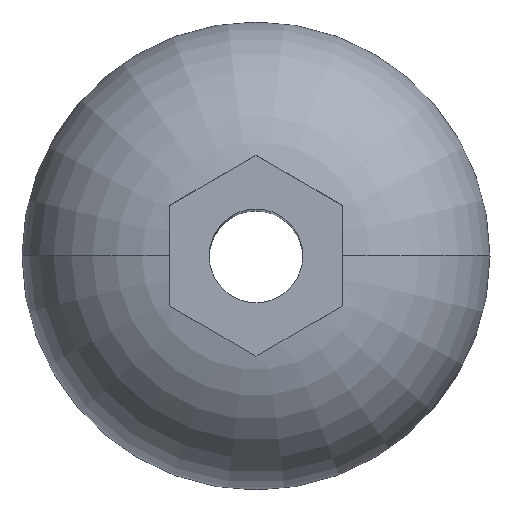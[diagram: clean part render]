
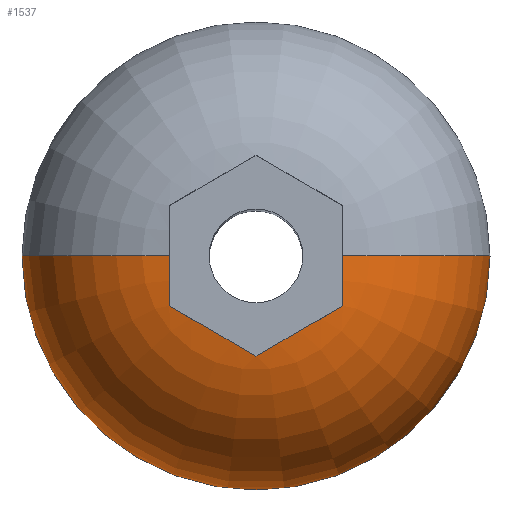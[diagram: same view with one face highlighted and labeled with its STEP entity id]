
A CAD part, top view. The second image highlights one B-rep face of the part: STEP entity #1537.
In plain terms, the highlighted toroidal (fillet/blend) face has major radius 0.501 mm and minor radius 1.25 mm.
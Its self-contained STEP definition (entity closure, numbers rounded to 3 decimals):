
#100 = CARTESIAN_POINT ( 'NONE',  ( -0.65, -0.375, 1.275 ) ) ;
#130 = ORIENTED_EDGE ( 'NONE', *, *, #752, .T. ) ;
#164 = EDGE_CURVE ( 'NONE', #2044, #1107, #1593, .T. ) ;
#167 = CARTESIAN_POINT ( 'NONE',  ( -1.75, 0., 0. ) ) ;
#196 = DIRECTION ( 'NONE',  ( 0., 0., 1. ) ) ;
#207 = EDGE_LOOP ( 'NONE', ( #1909, #1767, #1848, #2386, #130, #806, #1692 ) ) ;
#239 = VERTEX_POINT ( 'NONE', #741 ) ;
#256 = B_SPLINE_CURVE_WITH_KNOTS ( 'NONE', 3,
 ( #315, #1825, #1272, #674, #100 ),
 .UNSPECIFIED., .F., .F.,
 ( 4, 1, 4 ),
 ( 0., 0., 0.001 ),
 .UNSPECIFIED. ) ;
#270 = DIRECTION ( 'NONE',  ( 0., 0., -1. ) ) ;
#273 = DIRECTION ( 'NONE',  ( 1., 0., 0. ) ) ;
#315 = CARTESIAN_POINT ( 'NONE',  ( 0., -0.751, 1.275 ) ) ;
#318 = CARTESIAN_POINT ( 'NONE',  ( 0.65, -0.313, 1.281 ) ) ;
#418 = CARTESIAN_POINT ( 'NONE',  ( 0.65, -0.375, 1.275 ) ) ;
#450 = EDGE_CURVE ( 'NONE', #1019, #239, #1969, .T. ) ;
#465 = AXIS2_PLACEMENT_3D ( 'NONE', #502, #849, #270 ) ;
#502 = CARTESIAN_POINT ( 'NONE',  ( 0.501, 0., 0.05 ) ) ;
#513 = CARTESIAN_POINT ( 'NONE',  ( -0.65, -0.063, 1.291 ) ) ;
#565 = CARTESIAN_POINT ( 'NONE',  ( 0., -0.751, 1.275 ) ) ;
#585 = CARTESIAN_POINT ( 'NONE',  ( 0.325, -0.563, 1.295 ) ) ;
#653 = CARTESIAN_POINT ( 'NONE',  ( 0., 0., 0.05 ) ) ;
#674 = CARTESIAN_POINT ( 'NONE',  ( -0.542, -0.438, 1.288 ) ) ;
#741 = CARTESIAN_POINT ( 'NONE',  ( -0.65, 0., 1.291 ) ) ;
#752 = EDGE_CURVE ( 'NONE', #1107, #1729, #1212, .T. ) ;
#806 = ORIENTED_EDGE ( 'NONE', *, *, #1629, .T. ) ;
#849 = DIRECTION ( 'NONE',  ( 0., -1., 0. ) ) ;
#854 = VERTEX_POINT ( 'NONE', #167 ) ;
#887 = CARTESIAN_POINT ( 'NONE',  ( 0.65, -0.063, 1.291 ) ) ;
#967 = DIRECTION ( 'NONE',  ( 1., 0., 0. ) ) ;
#978 = AXIS2_PLACEMENT_3D ( 'NONE', #653, #1413, #273 ) ;
#985 = CIRCLE ( 'NONE', #1865, 1.25 ) ;
#1008 = VERTEX_POINT ( 'NONE', #1525 ) ;
#1014 = TOROIDAL_SURFACE ( 'NONE', #978, 0.501, 1.25 ) ;
#1019 = VERTEX_POINT ( 'NONE', #1509 ) ;
#1107 = VERTEX_POINT ( 'NONE', #418 ) ;
#1212 = B_SPLINE_CURVE_WITH_KNOTS ( 'NONE', 3,
 ( #2224, #2026, #585, #1703, #565 ),
 .UNSPECIFIED., .F., .F.,
 ( 4, 1, 4 ),
 ( 0., 0., 0.001 ),
 .UNSPECIFIED. ) ;
#1272 = CARTESIAN_POINT ( 'NONE',  ( -0.325, -0.563, 1.295 ) ) ;
#1335 = DIRECTION ( 'NONE',  ( 0., 1., 0. ) ) ;
#1413 = DIRECTION ( 'NONE',  ( 0., 0., 1. ) ) ;
#1428 = CARTESIAN_POINT ( 'NONE',  ( -0.65, -0.375, 1.275 ) ) ;
#1455 = CARTESIAN_POINT ( 'NONE',  ( 0.65, -0.251, 1.285 ) ) ;
#1467 = CARTESIAN_POINT ( 'NONE',  ( 0., -0.751, 1.275 ) ) ;
#1476 = CARTESIAN_POINT ( 'NONE',  ( -0.65, -0.125, 1.29 ) ) ;
#1509 = CARTESIAN_POINT ( 'NONE',  ( -0.65, -0.375, 1.275 ) ) ;
#1525 = CARTESIAN_POINT ( 'NONE',  ( 1.75, 0., 0. ) ) ;
#1537 = ADVANCED_FACE ( 'NONE', ( #1669 ), #1014, .T. ) ;
#1575 = CARTESIAN_POINT ( 'NONE',  ( 0.65, 0., 1.291 ) ) ;
#1593 = B_SPLINE_CURVE_WITH_KNOTS ( 'NONE', 3,
 ( #1996, #887, #2198, #1455, #318, #2024 ),
 .UNSPECIFIED., .F., .F.,
 ( 4, 2, 4 ),
 ( 0., 0., 0. ),
 .UNSPECIFIED. ) ;
#1629 = EDGE_CURVE ( 'NONE', #1729, #1019, #256, .T. ) ;
#1635 = CARTESIAN_POINT ( 'NONE',  ( -0.65, -0.251, 1.285 ) ) ;
#1669 = FACE_OUTER_BOUND ( 'NONE', #207, .T. ) ;
#1690 = CARTESIAN_POINT ( 'NONE',  ( -0.501, 0., 0.05 ) ) ;
#1692 = ORIENTED_EDGE ( 'NONE', *, *, #450, .T. ) ;
#1703 = CARTESIAN_POINT ( 'NONE',  ( 0.108, -0.688, 1.288 ) ) ;
#1729 = VERTEX_POINT ( 'NONE', #1467 ) ;
#1767 = ORIENTED_EDGE ( 'NONE', *, *, #1868, .T. ) ;
#1769 = CARTESIAN_POINT ( 'NONE',  ( -0.65, -0.313, 1.281 ) ) ;
#1806 = CIRCLE ( 'NONE', #465, 1.25 ) ;
#1825 = CARTESIAN_POINT ( 'NONE',  ( -0.108, -0.688, 1.288 ) ) ;
#1848 = ORIENTED_EDGE ( 'NONE', *, *, #2160, .T. ) ;
#1865 = AXIS2_PLACEMENT_3D ( 'NONE', #1690, #1335, #1881 ) ;
#1868 = EDGE_CURVE ( 'NONE', #854, #1008, #2123, .T. ) ;
#1881 = DIRECTION ( 'NONE',  ( -1., 0., 0. ) ) ;
#1909 = ORIENTED_EDGE ( 'NONE', *, *, #1958, .F. ) ;
#1911 = CARTESIAN_POINT ( 'NONE',  ( 0., 0., 0. ) ) ;
#1958 = EDGE_CURVE ( 'NONE', #854, #239, #985, .T. ) ;
#1969 = B_SPLINE_CURVE_WITH_KNOTS ( 'NONE', 3,
 ( #1428, #1769, #1635, #1476, #513, #2370 ),
 .UNSPECIFIED., .F., .F.,
 ( 4, 2, 4 ),
 ( 0.009, 0.009, 0.009 ),
 .UNSPECIFIED. ) ;
#1996 = CARTESIAN_POINT ( 'NONE',  ( 0.65, 0., 1.291 ) ) ;
#2024 = CARTESIAN_POINT ( 'NONE',  ( 0.65, -0.375, 1.275 ) ) ;
#2026 = CARTESIAN_POINT ( 'NONE',  ( 0.542, -0.438, 1.288 ) ) ;
#2044 = VERTEX_POINT ( 'NONE', #1575 ) ;
#2123 = CIRCLE ( 'NONE', #2365, 1.75 ) ;
#2160 = EDGE_CURVE ( 'NONE', #1008, #2044, #1806, .T. ) ;
#2198 = CARTESIAN_POINT ( 'NONE',  ( 0.65, -0.126, 1.29 ) ) ;
#2224 = CARTESIAN_POINT ( 'NONE',  ( 0.65, -0.375, 1.275 ) ) ;
#2365 = AXIS2_PLACEMENT_3D ( 'NONE', #1911, #196, #967 ) ;
#2370 = CARTESIAN_POINT ( 'NONE',  ( -0.65, 0., 1.291 ) ) ;
#2386 = ORIENTED_EDGE ( 'NONE', *, *, #164, .T. ) ;
